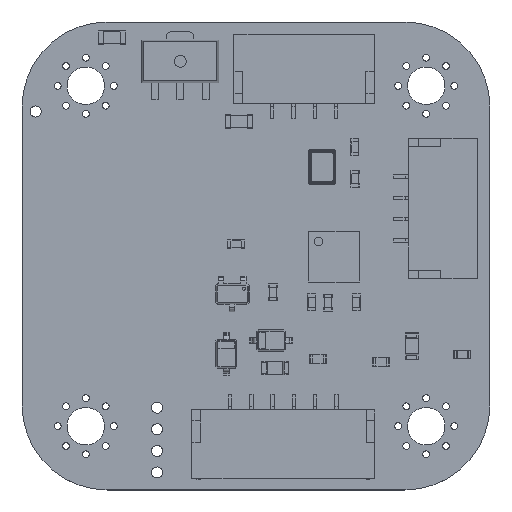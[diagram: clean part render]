
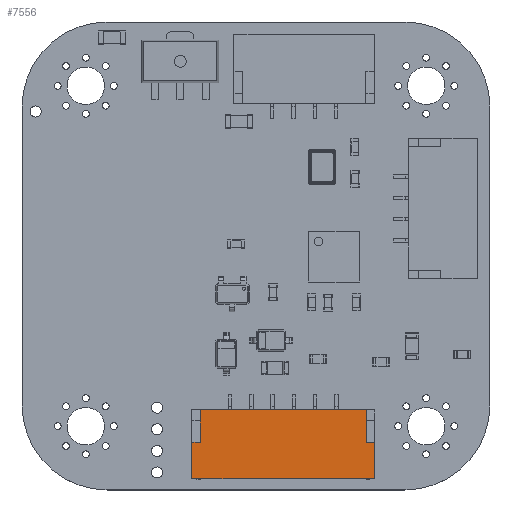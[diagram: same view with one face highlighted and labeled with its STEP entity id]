
A CAD part, top view. The second image highlights one B-rep face of the part: STEP entity #7556.
In plain terms, the highlighted planar face has unit normal (0, 0, 1).
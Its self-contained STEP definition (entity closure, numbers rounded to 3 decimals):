
#6629 = VERTEX_POINT('',#6630);
#6630 = CARTESIAN_POINT('',(-5.375,-0.32,4.245));
#6636 = EDGE_CURVE('',#6629,#6637,#6639,.T.);
#6637 = VERTEX_POINT('',#6638);
#6638 = CARTESIAN_POINT('',(-5.375,-2.47,4.245));
#6639 = LINE('',#6640,#6641);
#6640 = CARTESIAN_POINT('',(-5.375,1.58,4.245));
#6641 = VECTOR('',#6642,1.);
#6642 = DIRECTION('',(0.,-1.,0.));
#6987 = VERTEX_POINT('',#6988);
#6988 = CARTESIAN_POINT('',(5.375,-2.47,4.245));
#6994 = EDGE_CURVE('',#6637,#6987,#6995,.T.);
#6995 = LINE('',#6996,#6997);
#6996 = CARTESIAN_POINT('',(-5.375,-2.47,4.245));
#6997 = VECTOR('',#6998,1.);
#6998 = DIRECTION('',(1.,0.,0.));
#7556 = ADVANCED_FACE('',(#7557),#7607,.T.);
#7557 = FACE_BOUND('',#7558,.T.);
#7558 = EDGE_LOOP('',(#7559,#7569,#7577,#7583,#7584,#7585,#7593,#7601));
#7559 = ORIENTED_EDGE('',*,*,#7560,.F.);
#7560 = EDGE_CURVE('',#7561,#7563,#7565,.T.);
#7561 = VERTEX_POINT('',#7562);
#7562 = CARTESIAN_POINT('',(-4.875,1.58,4.245));
#7563 = VERTEX_POINT('',#7564);
#7564 = CARTESIAN_POINT('',(4.875,1.58,4.245));
#7565 = LINE('',#7566,#7567);
#7566 = CARTESIAN_POINT('',(-5.375,1.58,4.245));
#7567 = VECTOR('',#7568,1.);
#7568 = DIRECTION('',(1.,0.,0.));
#7569 = ORIENTED_EDGE('',*,*,#7570,.F.);
#7570 = EDGE_CURVE('',#7571,#7561,#7573,.T.);
#7571 = VERTEX_POINT('',#7572);
#7572 = CARTESIAN_POINT('',(-4.875,-0.32,4.245));
#7573 = LINE('',#7574,#7575);
#7574 = CARTESIAN_POINT('',(-4.875,-0.32,4.245));
#7575 = VECTOR('',#7576,1.);
#7576 = DIRECTION('',(0.,1.,0.));
#7577 = ORIENTED_EDGE('',*,*,#7578,.F.);
#7578 = EDGE_CURVE('',#6629,#7571,#7579,.T.);
#7579 = LINE('',#7580,#7581);
#7580 = CARTESIAN_POINT('',(-5.375,-0.32,4.245));
#7581 = VECTOR('',#7582,1.);
#7582 = DIRECTION('',(1.,0.,0.));
#7583 = ORIENTED_EDGE('',*,*,#6636,.T.);
#7584 = ORIENTED_EDGE('',*,*,#6994,.T.);
#7585 = ORIENTED_EDGE('',*,*,#7586,.F.);
#7586 = EDGE_CURVE('',#7587,#6987,#7589,.T.);
#7587 = VERTEX_POINT('',#7588);
#7588 = CARTESIAN_POINT('',(5.375,-0.32,4.245));
#7589 = LINE('',#7590,#7591);
#7590 = CARTESIAN_POINT('',(5.375,1.58,4.245));
#7591 = VECTOR('',#7592,1.);
#7592 = DIRECTION('',(0.,-1.,0.));
#7593 = ORIENTED_EDGE('',*,*,#7594,.F.);
#7594 = EDGE_CURVE('',#7595,#7587,#7597,.T.);
#7595 = VERTEX_POINT('',#7596);
#7596 = CARTESIAN_POINT('',(4.875,-0.32,4.245));
#7597 = LINE('',#7598,#7599);
#7598 = CARTESIAN_POINT('',(4.875,-0.32,4.245));
#7599 = VECTOR('',#7600,1.);
#7600 = DIRECTION('',(1.,0.,0.));
#7601 = ORIENTED_EDGE('',*,*,#7602,.T.);
#7602 = EDGE_CURVE('',#7595,#7563,#7603,.T.);
#7603 = LINE('',#7604,#7605);
#7604 = CARTESIAN_POINT('',(4.875,-0.32,4.245));
#7605 = VECTOR('',#7606,1.);
#7606 = DIRECTION('',(0.,1.,0.));
#7607 = PLANE('',#7608);
#7608 = AXIS2_PLACEMENT_3D('',#7609,#7610,#7611);
#7609 = CARTESIAN_POINT('',(-5.375,1.58,4.245));
#7610 = DIRECTION('',(0.,0.,1.));
#7611 = DIRECTION('',(0.,-1.,0.));
